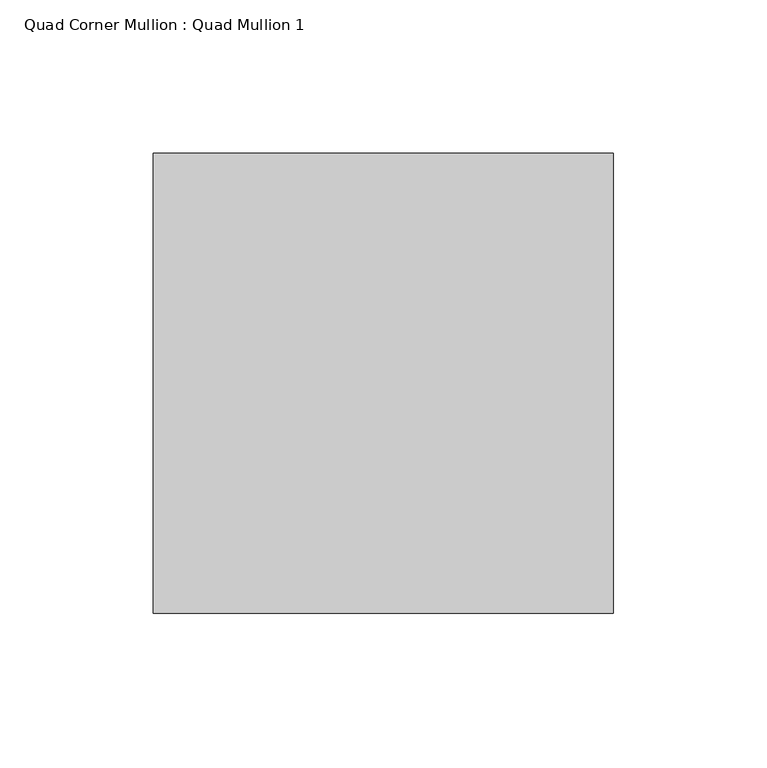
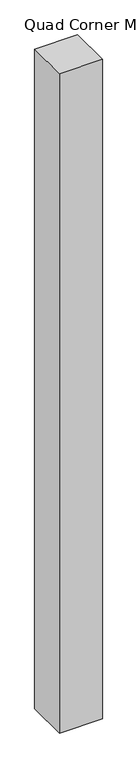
"""IFC4 building model written with IfcOpenShell, lengths in millimetres: member geometry, Quad Corner Mullion : Quad Mullion 1."""

import ifcopenshell
import ifcopenshell.guid

model = None  # the IFC model being written
_history = None  # IfcOwnerHistory: only IFC2X3 demands one
_inside = {}  # id of a spatial element -> (the spatial element, [elements in it])
_under = {}  # id of a project, library or spatial element -> (it, [spatial elements below it])
_declared = {}  # id of a project -> (the project, [libraries it declares])
_typed = {}  # id of a type object -> (the type object, [elements of that type])
_made_of = {}  # id of a material, layer set ... -> (it, [elements and type objects made of it])


def new_model(schema):
    """Start an empty IFC model of exactly this schema.

    Asked for "IFC4X3", IfcOpenShell would pick the latest addendum, in which some entities
    have other attributes; the version numbers below select the first issue.
    IFC2X3 requires an IfcOwnerHistory on every rooted entity: one is made here for all.
    """
    global model, _history
    if schema == "IFC4X3":
        model = ifcopenshell.file(schema_version=(4, 3, 0, 0))
    else:
        model = ifcopenshell.file(schema=schema)
    _inside.clear()
    _under.clear()
    _declared.clear()
    _typed.clear()
    _made_of.clear()
    _history = None
    if model.schema == "IFC2X3":
        org = make("IfcOrganization", Name="unknown")
        user = make(
            "IfcPersonAndOrganization",
            ThePerson=make("IfcPerson", FamilyName="unknown"),
            TheOrganization=org,
        )
        app = make(
            "IfcApplication",
            ApplicationDeveloper=org,
            Version="unknown",
            ApplicationFullName="unknown",
            ApplicationIdentifier="unknown",
        )
        _history = make(
            "IfcOwnerHistory",
            OwningUser=user,
            OwningApplication=app,
            ChangeAction="ADDED",
            CreationDate=0,
        )
    return model


def make(cls, **values):
    """One entity of the class cls with the attributes given. An attribute that is None is left unset."""
    return model.create_entity(
        cls, **{name: value for name, value in values.items() if value is not None}
    )


def rooted(cls, **values):
    """An entity with a GlobalId (a new one), such as an element, a storey or a relation."""
    return make(cls, GlobalId=ifcopenshell.guid.new(), OwnerHistory=_history, **values)


def si_unit(unit_type, name, prefix=None):
    """IfcSIUnit, for example si_unit("LENGTHUNIT", "METRE", prefix="MILLI")."""
    return make("IfcSIUnit", UnitType=unit_type, Prefix=prefix, Name=name)


def assignment(units):
    """IfcUnitAssignment: the units of a project."""
    return None if units is None else make("IfcUnitAssignment", Units=units)


def point(xyz):
    """IfcCartesianPoint."""
    return None if xyz is None else make("IfcCartesianPoint", Coordinates=xyz)


def direction(xyz):
    """IfcDirection."""
    return None if xyz is None else make("IfcDirection", DirectionRatios=xyz)


def frame(location, z_axis=None, x_axis=None):
    """IfcAxis2Placement3D, a coordinate frame: its origin and axes. An axis left out is left unset."""
    return make(
        "IfcAxis2Placement3D",
        Location=point(location),
        Axis=direction(z_axis),
        RefDirection=direction(x_axis),
    )


def origin():
    """The frame at (0, 0, 0) with its axes left unset."""
    return frame((0.0, 0.0, 0.0))


def place(relative_to, where):
    """IfcLocalPlacement: puts the frame where relative to a parent placement (None: the world)."""
    return make(
        "IfcLocalPlacement", PlacementRelTo=relative_to, RelativePlacement=where
    )


def context(
    kind, dimensions, precision=None, world=None, true_north=None, identifier=None
):
    """IfcGeometricRepresentationContext, for example the 3D "Model" context."""
    return make(
        "IfcGeometricRepresentationContext",
        ContextIdentifier=identifier,
        ContextType=kind,
        CoordinateSpaceDimension=dimensions,
        Precision=precision,
        WorldCoordinateSystem=world,
        TrueNorth=true_north,
    )


def project(units=None, contexts=None):
    """IfcProject with its units and contexts."""
    return rooted(
        "IfcProject",
        Name="project",
        RepresentationContexts=contexts,
        UnitsInContext=assignment(units),
    )


def spatial(cls, under=None, at=None, **own):
    """A site, building, storey or space (cls), placed at a placement, below another one or the project."""
    s = rooted(cls, ObjectPlacement=at, **own)
    if under is not None:
        _under.setdefault(under.id(), (under, []))[1].append(s)
    return s


def polyline(points):
    """IfcPolyline through the points."""
    return make("IfcPolyline", Points=[point(p) for p in points])


def outline(outer, holes=None, kind="AREA"):
    """IfcArbitraryClosedProfileDef: a profile drawn as a closed curve; with holes, ...WithVoids."""
    if holes is None:
        return make("IfcArbitraryClosedProfileDef", ProfileType=kind, OuterCurve=outer)
    return make(
        "IfcArbitraryProfileDefWithVoids",
        ProfileType=kind,
        OuterCurve=outer,
        InnerCurves=holes,
    )


def extrude(swept, where, along, depth):
    """IfcExtrudedAreaSolid: the profile swept, set in the frame where, extruded along a direction by depth."""
    return make(
        "IfcExtrudedAreaSolid",
        SweptArea=swept,
        Position=where,
        ExtrudedDirection=direction(along),
        Depth=depth,
    )


def shape(context_of_items, identifier, shape_type, items):
    """IfcShapeRepresentation: the items that make up one representation, for example the "Body"."""
    return make(
        "IfcShapeRepresentation",
        ContextOfItems=context_of_items,
        RepresentationIdentifier=identifier,
        RepresentationType=shape_type,
        Items=items,
    )


def source(mapping_origin, context_of_items, identifier, shape_type, items):
    """IfcRepresentationMap: a shape defined once, which mapped items show again and again."""
    return make(
        "IfcRepresentationMap",
        MappingOrigin=mapping_origin,
        MappedRepresentation=shape(context_of_items, identifier, shape_type, items),
    )


def transform(
    local_origin,
    x_axis=None,
    y_axis=None,
    z_axis=None,
    scale=None,
    scale2=None,
    scale3=None,
    uniform=True,
):
    """IfcCartesianTransformationOperator3D, or its non-uniform kind. x_axis, y_axis, z_axis: its Axis1, 2, 3."""
    if uniform:
        return make(
            "IfcCartesianTransformationOperator3D",
            Axis1=direction(x_axis),
            Axis2=direction(y_axis),
            LocalOrigin=point(local_origin),
            Scale=scale,
            Axis3=direction(z_axis),
        )
    return make(
        "IfcCartesianTransformationOperator3DnonUniform",
        Axis1=direction(x_axis),
        Axis2=direction(y_axis),
        LocalOrigin=point(local_origin),
        Scale=scale,
        Axis3=direction(z_axis),
        Scale2=scale2,
        Scale3=scale3,
    )


def mapped(mapping_source, mapping_target):
    """IfcMappedItem: shows the shape of a source again, moved by a transform."""
    return make(
        "IfcMappedItem", MappingSource=mapping_source, MappingTarget=mapping_target
    )


def made_of(thing, what):
    """Note that an element or type object is made of a material, layer set ...; save() writes the relation."""
    if what is not None:
        _made_of.setdefault(what.id(), (what, []))[1].append(thing)
    return thing


def element(
    cls,
    number,
    at=None,
    inside=None,
    cuts=None,
    type_object=None,
    material=None,
    context=None,
    identifier="Body",
    shape_type=None,
    held_by="IfcProductDefinitionShape",
    body=None,
    shapes=None,
    **own,
):
    """One element of the class cls, such as IfcWall. Its Tag is "e" and its number.

    at: its placement. inside: the storey or other place that contains it. cuts: it is an
    opening in that element (IfcRelVoidsElement). A single representation is given by context,
    identifier, shape_type and body (its items); several are given by shapes. held_by: the class
    of the entity that holds the representations. save() writes the other relations.
    """
    e = rooted(cls, Tag="e%d" % number, ObjectPlacement=at, **own)
    if body is not None:
        shapes = [shape(context, identifier, shape_type, body)]
    if shapes is not None:
        e.Representation = make(held_by, Representations=shapes)
    if inside is not None:
        _inside.setdefault(inside.id(), (inside, []))[1].append(e)
    if cuts is not None:
        rooted(
            "IfcRelVoidsElement", RelatingBuildingElement=cuts, RelatedOpeningElement=e
        )
    if type_object is not None:
        _typed.setdefault(type_object.id(), (type_object, []))[1].append(e)
    return made_of(e, material)


def aggregate(whole, parts):
    """IfcRelAggregates: a whole, such as a stair, and the parts it consists of."""
    return rooted("IfcRelAggregates", RelatingObject=whole, RelatedObjects=parts)


def save(model, path):
    """Write the relations noted so far, then the file.

    IfcRelAggregates (storeys below a building ...), IfcRelContainedInSpatialStructure (elements
    in a storey), IfcRelDefinesByType, IfcRelAssociatesMaterial and IfcRelDeclares: one each for
    every whole, place, type object, material and project.
    """
    for whole, parts in _under.values():
        aggregate(whole, parts)
    for where, things in _inside.values():
        rooted(
            "IfcRelContainedInSpatialStructure",
            RelatedElements=things,
            RelatingStructure=where,
        )
    for kind, things in _typed.values():
        rooted("IfcRelDefinesByType", RelatedObjects=things, RelatingType=kind)
    for what, things in _made_of.values():
        rooted("IfcRelAssociatesMaterial", RelatedObjects=things, RelatingMaterial=what)
    for by, libraries in _declared.values():
        rooted("IfcRelDeclares", RelatingContext=by, RelatedDefinitions=libraries)
    model.write(path)


def quad_corner_mullion_quad_mullion_1_37ac55ff(model_context):
    return source(origin(), model_context, "Body", "SweptSolid", [
        extrude(outline(polyline([(75.0, 75.0), (75.0, -75.0), (-75.0, -75.0), (-75.0, 75.0), (75.0, 75.0)])), frame((0.0, 0.0, -2440.0), z_axis=(0.0, 0.0, 1.0), x_axis=(1.0, 0.0, 0.0)), (0.0, 0.0, 1.0), 2440.0),
    ])


if __name__ == "__main__":
    model = new_model("IFC4")
    model_context = context("Model", 3, world=origin())
    ifc_project = project(units=[si_unit("LENGTHUNIT", "METRE", prefix="MILLI")], contexts=[model_context])
    site = spatial("IfcSite", under=ifc_project)
    building = spatial("IfcBuilding", under=site)
    placement = place(None, origin())
    quad_corner_mullion_quad_mullion_1_shape = quad_corner_mullion_quad_mullion_1_37ac55ff(model_context)
    element("IfcMember", 1, ObjectType="Quad Corner Mullion : Quad Mullion 1", at=placement, inside=building, context=model_context, shape_type="MappedRepresentation", body=[
        mapped(quad_corner_mullion_quad_mullion_1_shape, transform((0.0, 0.0, 0.0), x_axis=(1.0, 0.0, 0.0), y_axis=(0.0, 1.0, 0.0), z_axis=(0.0, 0.0, 1.0))),
    ])
    save(model, "model.ifc")
